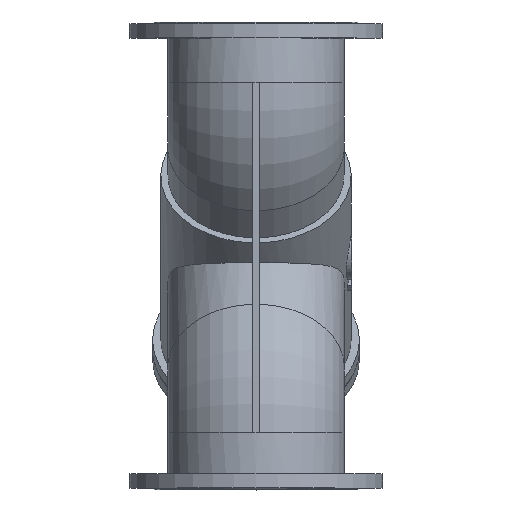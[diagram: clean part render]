
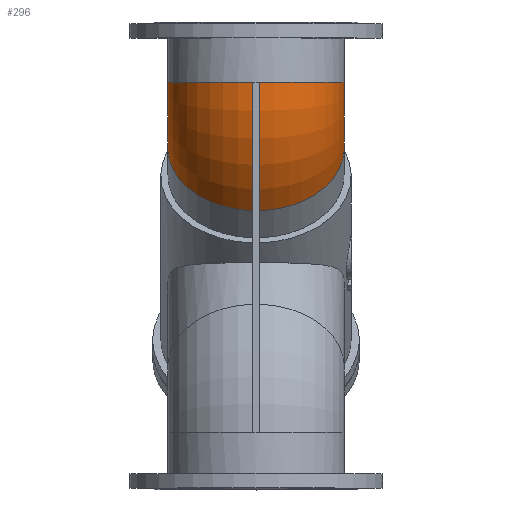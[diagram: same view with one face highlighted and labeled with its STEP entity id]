
A CAD part, top view. The second image highlights one B-rep face of the part: STEP entity #296.
In plain terms, the highlighted toroidal (fillet/blend) face has major radius 170 mm and minor radius 160 mm.
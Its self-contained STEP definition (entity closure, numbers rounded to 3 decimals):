
#296=ADVANCED_FACE('',(#1084),#1086,.T.);
#1084=FACE_BOUND('',#1085,.T.);
#1085=EDGE_LOOP('',(#1876,#1877,#1878,#1879));
#1086=TOROIDAL_SURFACE('',#1087,170.,160.);
#1087=AXIS2_PLACEMENT_3D('',#1088,#1089,#1090);
#1088=CARTESIAN_POINT('',(0.,315.416,-170.));
#1089=DIRECTION('',(1.,0.,0.));
#1090=DIRECTION('',(0.,0.,1.));
#1876=ORIENTED_EDGE('',*,*,#2138,.F.);
#1877=ORIENTED_EDGE('',*,*,#2161,.T.);
#1878=ORIENTED_EDGE('',*,*,#2147,.F.);
#1879=ORIENTED_EDGE('',*,*,#2162,.F.);
#2138=EDGE_CURVE('',#2348,#2350,#2351,.T.);
#2147=EDGE_CURVE('',#2364,#2366,#2367,.F.);
#2161=EDGE_CURVE('',#2348,#2366,#2387,.T.);
#2162=EDGE_CURVE('',#2350,#2364,#2388,.T.);
#2348=VERTEX_POINT('',#3502);
#2350=VERTEX_POINT('',#3506);
#2351=CIRCLE('',#3507,329.887);
#2364=VERTEX_POINT('',#3540);
#2366=VERTEX_POINT('',#3544);
#2367=CIRCLE('',#3545,329.887);
#2387=CIRCLE('',#3600,160.);
#2388=CIRCLE('',#3604,160.);
#3502=CARTESIAN_POINT('',(-6.,315.416,159.887));
#3506=CARTESIAN_POINT('',(-6.,82.151,63.266));
#3507=AXIS2_PLACEMENT_3D('',#3508,#3509,#3510);
#3508=CARTESIAN_POINT('',(-6.,315.416,-170.));
#3509=DIRECTION('',(1.,0.,0.));
#3510=DIRECTION('',(0.,0.,1.));
#3540=CARTESIAN_POINT('',(6.,82.151,63.266));
#3544=CARTESIAN_POINT('',(6.,315.416,159.887));
#3545=AXIS2_PLACEMENT_3D('',#3546,#3547,#3548);
#3546=CARTESIAN_POINT('',(6.,315.416,-170.));
#3547=DIRECTION('',(1.,0.,0.));
#3548=DIRECTION('',(0.,0.,1.));
#3600=AXIS2_PLACEMENT_3D('',#3601,#3602,#3603);
#3601=CARTESIAN_POINT('',(0.,315.416,0.));
#3602=DIRECTION('',(0.,-1.,0.));
#3603=DIRECTION('',(-0.037,0.,0.999));
#3604=AXIS2_PLACEMENT_3D('',#3605,#3606,#3607);
#3605=CARTESIAN_POINT('',(0.,195.208,-49.792));
#3606=DIRECTION('',(0.,-0.707,-0.707));
#3607=DIRECTION('',(-0.038,-0.707,0.707));
